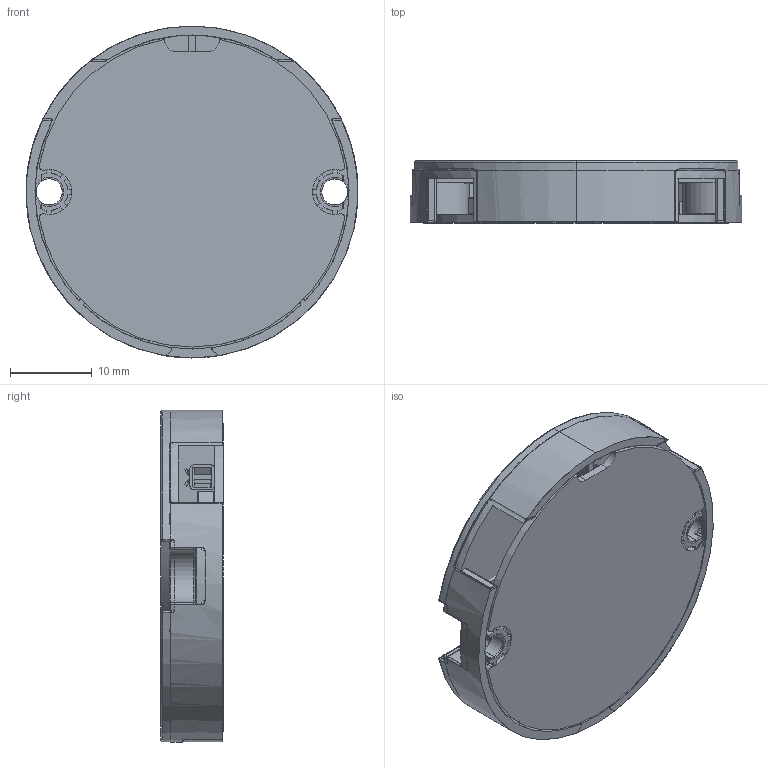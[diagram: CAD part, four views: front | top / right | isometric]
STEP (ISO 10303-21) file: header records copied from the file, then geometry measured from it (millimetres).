
FILE_DESCRIPTION (( 'STEP AP214' ), '1' );
FILE_NAME ('DoB 120V COB 38mm 4-8W with Holder and Cover.STEP', '2017-06-27T04:55:35', ( 'Admin' ), ( 'Microsoft' ), 'SwSTEP 2.0', 'SolidWorks 2017', '' );
FILE_SCHEMA (( 'AUTOMOTIVE_DESIGN' ));
Length unit declared in the file: millimetre
Products named in the file (38): C0603K; 001948-H2.1795-A1 Holder EDC_38C; SOT 363; 001947 PCB-COB 38mm 4-8W; DoB 120V COB 38mm 4-8W with Holder and Cover; 001948-H1-1795-A1 Cover EDC_38C; MAP9004; MB6S; VARISTOR; CONNECTOR_L; R0603; R1206; Fuse COB-Module; D0603R; CAPACITOR 1206
Assembly tree (23 placements, depth 2):
  C0603K
  001948-H2.1795-A1 Holder EDC_38C
  C0603K
  SOT 363
  001947 PCB-COB 38mm 4-8W
Bounding box: 40.65 x 7.6 x 40.69 mm (x, y, z)
Volume: 6188.5 mm3; surface area: 11855.5 mm2
Topology: 23 solids, 23 shells, 4162 faces, 11064 edges, 7153 vertices
Faces by surface type: plane 2144, bspline 1210, cylinder 648, torus 96, sphere 54, cone 10
Entity records: 139079 total; most frequent: CARTESIAN_POINT 50913, ORIENTED_EDGE 15758, DIRECTION 12084, EDGE_CURVE 7879, VERTEX_POINT 5115, VECTOR 5054, LINE 5054, AXIS2_PLACEMENT_3D 3515
